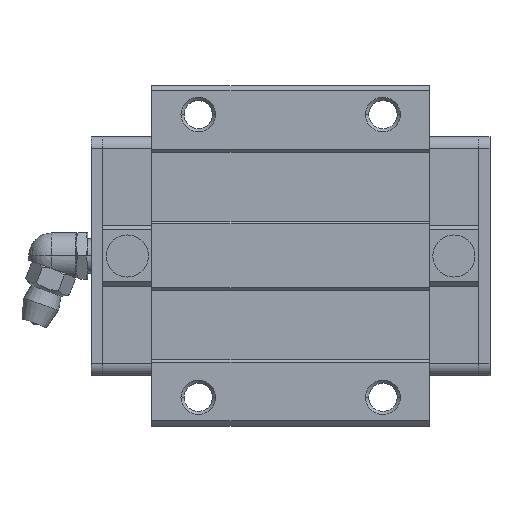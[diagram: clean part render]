
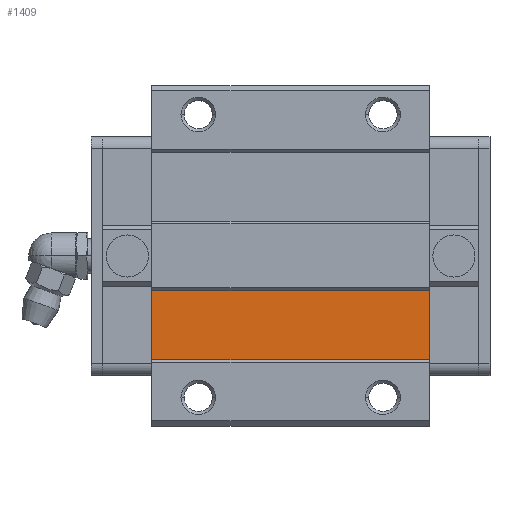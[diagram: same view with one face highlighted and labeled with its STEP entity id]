
A CAD part, top view. The second image highlights one B-rep face of the part: STEP entity #1409.
In plain terms, the highlighted planar face has unit normal (0, 0, 1).
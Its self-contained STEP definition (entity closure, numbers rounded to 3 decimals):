
#1348=CARTESIAN_POINT('POINT96',(58.6,-18.,21.55));
#1349=VERTEX_POINT('VERTEX96',#1348);
#1356=CARTESIAN_POINT('POINT97',(10.5,-18.,21.55));
#1357=VERTEX_POINT('VERTEX97',#1356);
#1358=CARTESIAN_POINT('POS143',(10.5,-18.,21.55));
#1359=DIRECTION('DIR211',(1.,0.,0.));
#1360=VECTOR('VEC75',#1359,1.);
#1361=LINE('STRAIGHT75',#1358,#1360);
#1362=EDGE_CURVE('EDGE142',#1357,#1349,#1361,.T.);
#1379=CARTESIAN_POINT('POINT98',(58.6,-6.,21.55
   ));
#1380=VERTEX_POINT('VERTEX98',#1379);
#1381=CARTESIAN_POINT('POS146',(58.6,-6.,21.55)
   );
#1382=DIRECTION('DIR215',(0.,1.,0.));
#1383=VECTOR('VEC77',#1382,1.);
#1384=LINE('STRAIGHT77',#1381,#1383);
#1385=EDGE_CURVE('EDGE144',#1349,#1380,#1384,.T.);
#1386=ORIENTED_EDGE('COEDGE241',*,*,#1385,.T.);
#1387=CARTESIAN_POINT('POINT99',(10.5,-6.,21.55
   ));
#1388=VERTEX_POINT('VERTEX99',#1387);
#1389=CARTESIAN_POINT('POS147',(10.5,-6.,21.55)
   );
#1390=DIRECTION('DIR216',(1.,0.,0.));
#1391=VECTOR('VEC78',#1390,1.);
#1392=LINE('STRAIGHT78',#1389,#1391);
#1393=EDGE_CURVE('EDGE145',#1388,#1380,#1392,.T.);
#1394=ORIENTED_EDGE('COEDGE242',*,*,#1393,.F.);
#1395=CARTESIAN_POINT('POS148',(10.5,-6.,21.55)
   );
#1396=DIRECTION('DIR217',(0.,-1.,0.));
#1397=VECTOR('VEC79',#1396,1.);
#1398=LINE('STRAIGHT79',#1395,#1397);
#1399=EDGE_CURVE('EDGE146',#1388,#1357,#1398,.T.);
#1400=ORIENTED_EDGE('COEDGE243',*,*,#1399,.T.);
#1401=ORIENTED_EDGE('COEDGE244',*,*,#1362,.T.);
#1402=EDGE_LOOP('NONE',(#1386,#1394,#1400,#1401));
#1403=FACE_BOUND('LOOP1',#1402,.T.);
#1404=CARTESIAN_POINT('POS149',(10.5,-18.,21.55));
#1405=DIRECTION('DIR218',(0.,0.,1.));
#1406=DIRECTION('DIR219',(1.,0.,0.));
#1407=AXIS2_PLACEMENT_3D('AXIS70',#1404,#1405,#1406);
#1408=PLANE('PLANE20',#1407);
#1409=ADVANCED_FACE('FACE49',(#1403),#1408,.T.);
